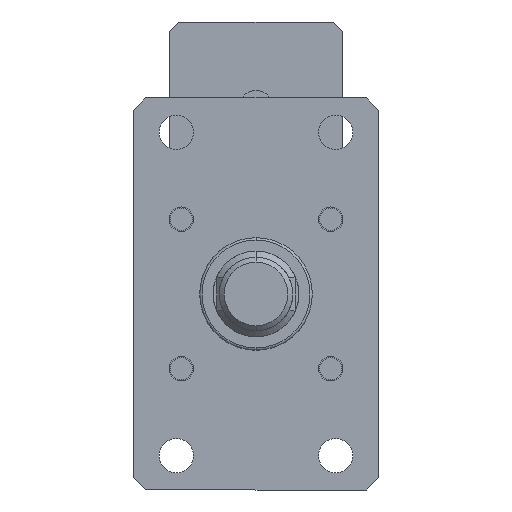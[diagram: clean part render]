
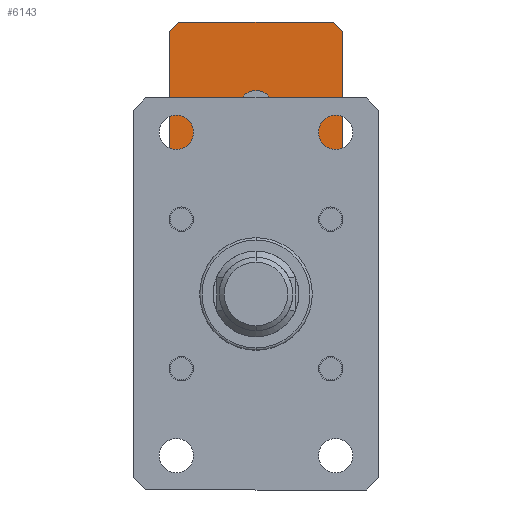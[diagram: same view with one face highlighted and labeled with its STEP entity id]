
A CAD part, front view. The second image highlights one B-rep face of the part: STEP entity #6143.
In plain terms, the highlighted planar face has unit normal (0, -1, 0).
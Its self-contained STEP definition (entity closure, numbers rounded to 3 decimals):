
#19 = EDGE_CURVE ( 'NONE', #699, #3292, #4041, .T. ) ;
#94 = CARTESIAN_POINT ( 'NONE',  ( 35.5, 160., 44. ) ) ;
#201 = DIRECTION ( 'NONE',  ( -0.707, 0., -0.707 ) ) ;
#354 = CARTESIAN_POINT ( 'NONE',  ( 31.5, 160., 40. ) ) ;
#440 = CARTESIAN_POINT ( 'NONE',  ( -35.5, 160., 44. ) ) ;
#606 = DIRECTION ( 'NONE',  ( 1., 0., 0. ) ) ;
#699 = VERTEX_POINT ( 'NONE', #5397 ) ;
#709 = VECTOR ( 'NONE', #949, 1000. ) ;
#949 = DIRECTION ( 'NONE',  ( 0.707, 0., 0.707 ) ) ;
#1039 = AXIS2_PLACEMENT_3D ( 'NONE', #2456, #6355, #3020 ) ;
#1331 = VERTEX_POINT ( 'NONE', #354 ) ;
#1485 = EDGE_CURVE ( 'NONE', #3292, #1331, #2714, .T. ) ;
#1569 = CARTESIAN_POINT ( 'NONE',  ( -35.5, 160., 111. ) ) ;
#1601 = LINE ( 'NONE', #6394, #5861 ) ;
#1771 = EDGE_CURVE ( 'NONE', #5538, #6694, #2438, .T. ) ;
#1958 = CARTESIAN_POINT ( 'NONE',  ( 0., 160., 75.5 ) ) ;
#2113 = LINE ( 'NONE', #4083, #5242 ) ;
#2116 = DIRECTION ( 'NONE',  ( 0., 1., 0. ) ) ;
#2128 = LINE ( 'NONE', #7022, #6574 ) ;
#2133 = FACE_OUTER_BOUND ( 'NONE', #7031, .T. ) ;
#2260 = CARTESIAN_POINT ( 'NONE',  ( -35.5, 160., 107. ) ) ;
#2399 = ORIENTED_EDGE ( 'NONE', *, *, #6613, .T. ) ;
#2426 = CARTESIAN_POINT ( 'NONE',  ( 0., 160., 83. ) ) ;
#2438 = CIRCLE ( 'NONE', #2611, 7.5 ) ;
#2456 = CARTESIAN_POINT ( 'NONE',  ( 0., 160., 75.5 ) ) ;
#2517 = DIRECTION ( 'NONE',  ( 0., 0., -1. ) ) ;
#2564 = CARTESIAN_POINT ( 'NONE',  ( 35.5, 160., 44. ) ) ;
#2575 = VECTOR ( 'NONE', #3772, 1000. ) ;
#2611 = AXIS2_PLACEMENT_3D ( 'NONE', #1958, #5856, #2517 ) ;
#2672 = ORIENTED_EDGE ( 'NONE', *, *, #1485, .T. ) ;
#2699 = ORIENTED_EDGE ( 'NONE', *, *, #3240, .F. ) ;
#2714 = LINE ( 'NONE', #4502, #7167 ) ;
#2742 = AXIS2_PLACEMENT_3D ( 'NONE', #1569, #2116, #6019 ) ;
#2817 = CARTESIAN_POINT ( 'NONE',  ( 31.5, 160., 111. ) ) ;
#3020 = DIRECTION ( 'NONE',  ( 0., 0., -1. ) ) ;
#3117 = DIRECTION ( 'NONE',  ( -0.707, 0., 0.707 ) ) ;
#3140 = EDGE_CURVE ( 'NONE', #5091, #4090, #2113, .T. ) ;
#3240 = EDGE_CURVE ( 'NONE', #5623, #5748, #1601, .T. ) ;
#3292 = VERTEX_POINT ( 'NONE', #6421 ) ;
#3373 = EDGE_LOOP ( 'NONE', ( #3993, #4026 ) ) ;
#3384 = EDGE_CURVE ( 'NONE', #1331, #5748, #3670, .T. ) ;
#3394 = DIRECTION ( 'NONE',  ( 1., 0., 0. ) ) ;
#3500 = CARTESIAN_POINT ( 'NONE',  ( -35.5, 160., 111. ) ) ;
#3548 = ORIENTED_EDGE ( 'NONE', *, *, #7126, .T. ) ;
#3652 = CARTESIAN_POINT ( 'NONE',  ( -31.5, 160., 111. ) ) ;
#3670 = LINE ( 'NONE', #2564, #709 ) ;
#3772 = DIRECTION ( 'NONE',  ( 0.707, 0., -0.707 ) ) ;
#3993 = ORIENTED_EDGE ( 'NONE', *, *, #6466, .F. ) ;
#4026 = ORIENTED_EDGE ( 'NONE', *, *, #1771, .F. ) ;
#4041 = LINE ( 'NONE', #440, #2575 ) ;
#4046 = DIRECTION ( 'NONE',  ( 0., 0., -1. ) ) ;
#4083 = CARTESIAN_POINT ( 'NONE',  ( -31.5, 160., 111. ) ) ;
#4090 = VERTEX_POINT ( 'NONE', #2260 ) ;
#4119 = ORIENTED_EDGE ( 'NONE', *, *, #3384, .T. ) ;
#4378 = ORIENTED_EDGE ( 'NONE', *, *, #19, .T. ) ;
#4472 = CIRCLE ( 'NONE', #1039, 7.5 ) ;
#4502 = CARTESIAN_POINT ( 'NONE',  ( -35.5, 160., 40. ) ) ;
#4871 = CARTESIAN_POINT ( 'NONE',  ( 0., 160., 68. ) ) ;
#4886 = PLANE ( 'NONE',  #2742 ) ;
#5031 = ORIENTED_EDGE ( 'NONE', *, *, #6268, .F. ) ;
#5091 = VERTEX_POINT ( 'NONE', #3652 ) ;
#5242 = VECTOR ( 'NONE', #201, 1000. ) ;
#5268 = DIRECTION ( 'NONE',  ( 0., 0., -1. ) ) ;
#5351 = LINE ( 'NONE', #6738, #6833 ) ;
#5397 = CARTESIAN_POINT ( 'NONE',  ( -35.5, 160., 44. ) ) ;
#5428 = VECTOR ( 'NONE', #4046, 1000. ) ;
#5538 = VERTEX_POINT ( 'NONE', #2426 ) ;
#5623 = VERTEX_POINT ( 'NONE', #6404 ) ;
#5748 = VERTEX_POINT ( 'NONE', #94 ) ;
#5856 = DIRECTION ( 'NONE',  ( 0., -1., 0. ) ) ;
#5861 = VECTOR ( 'NONE', #5268, 1000. ) ;
#6019 = DIRECTION ( 'NONE',  ( 0., 0., 1. ) ) ;
#6143 = ADVANCED_FACE ( 'NONE', ( #6403, #2133 ), #4886, .F. ) ;
#6265 = VERTEX_POINT ( 'NONE', #2817 ) ;
#6268 = EDGE_CURVE ( 'NONE', #5091, #6265, #5351, .T. ) ;
#6355 = DIRECTION ( 'NONE',  ( 0., -1., 0. ) ) ;
#6394 = CARTESIAN_POINT ( 'NONE',  ( 35.5, 160., 111. ) ) ;
#6403 = FACE_BOUND ( 'NONE', #3373, .T. ) ;
#6404 = CARTESIAN_POINT ( 'NONE',  ( 35.5, 160., 107. ) ) ;
#6421 = CARTESIAN_POINT ( 'NONE',  ( -31.5, 160., 40. ) ) ;
#6466 = EDGE_CURVE ( 'NONE', #6694, #5538, #4472, .T. ) ;
#6574 = VECTOR ( 'NONE', #3117, 1000. ) ;
#6613 = EDGE_CURVE ( 'NONE', #5623, #6265, #2128, .T. ) ;
#6694 = VERTEX_POINT ( 'NONE', #4871 ) ;
#6738 = CARTESIAN_POINT ( 'NONE',  ( -35.5, 160., 111. ) ) ;
#6833 = VECTOR ( 'NONE', #3394, 1000. ) ;
#6848 = ORIENTED_EDGE ( 'NONE', *, *, #3140, .T. ) ;
#6904 = LINE ( 'NONE', #3500, #5428 ) ;
#7022 = CARTESIAN_POINT ( 'NONE',  ( 31.5, 160., 111. ) ) ;
#7031 = EDGE_LOOP ( 'NONE', ( #2672, #4119, #2699, #2399, #5031, #6848, #3548, #4378 ) ) ;
#7126 = EDGE_CURVE ( 'NONE', #4090, #699, #6904, .T. ) ;
#7167 = VECTOR ( 'NONE', #606, 1000. ) ;
